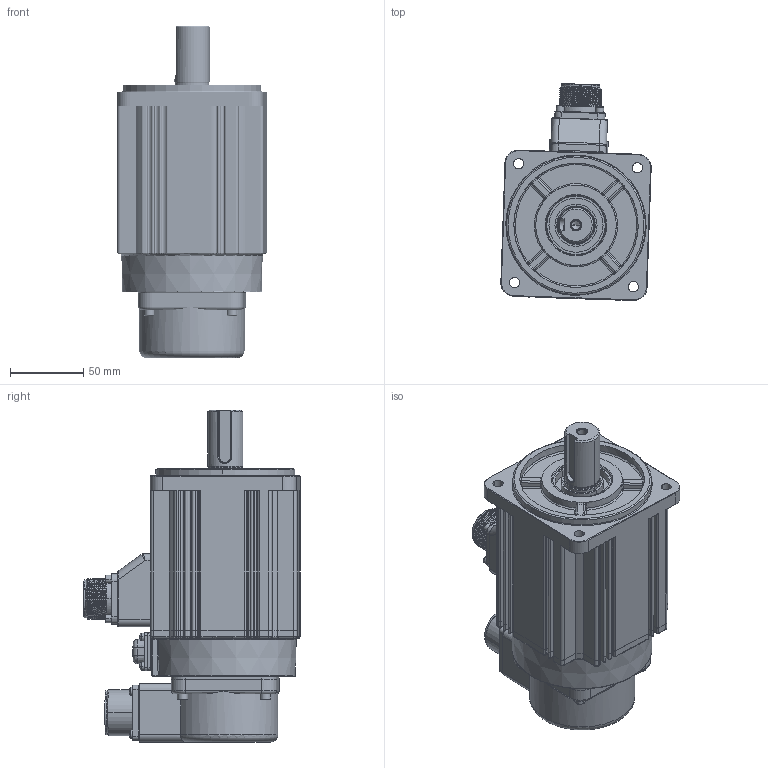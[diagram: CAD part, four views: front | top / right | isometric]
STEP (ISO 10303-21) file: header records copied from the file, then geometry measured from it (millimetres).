
FILE_DESCRIPTION((''),'2;1');
FILE_NAME('IMS20B-10M15C30C_00_ASM','2024-10-24T09:23:02',('0109067'),(''),'CREO PARAMETRIC BY PTC INC, 2019080','CREO PARAMETRIC BY PTC INC, 2019080','');
FILE_SCHEMA(('CONFIG_CONTROL_DESIGN'));
Products named in the file (19): 100_JIKE_15C_L48_2; 50051-00115_1; 18-A6-18FLANGE-CUSTOM-3D_1; ISO4762-M3X30-8_8_1; 100_DZZJ_15C_ASM_2_ASM; 100_15C_ZHOU_BZ_1; 100_HDG_BZ_1; 100_ZZZJ_15C_BZ_ASM_1_ASM; BAOZHA_MIFENGDIAN_1; BAOZHA_CHUXIANHE_1; M3X8-0001_1; 100_FHZ_1; CMS3102A20-29PE9-A-3D_1; ISO7045-M3X16-4_8_1; ISO4762-M4X16-8_8_1; 100_FHZ_ASM_1_ASM; 13000_1; IMS20B-10M15C30C_BZ_ASM_2_ASM; IMS20B-10M15C30C_00_ASM
Assembly tree (30 placements, depth 4):
  IMS20B-10M15C30C_00_ASM
    IMS20B-10M15C30C_BZ_ASM_2_ASM
      100_DZZJ_15C_ASM_2_ASM
        100_JIKE_15C_L48_2
        50051-00115_1
        18-A6-18FLANGE-CUSTOM-3D_1
        ISO4762-M3X30-8_8_1  x4
      100_ZZZJ_15C_BZ_ASM_1_ASM
        100_15C_ZHOU_BZ_1
        100_HDG_BZ_1
      BAOZHA_MIFENGDIAN_1
      BAOZHA_CHUXIANHE_1
      M3X8-0001_1  x4
      100_FHZ_ASM_1_ASM
        100_FHZ_1
        CMS3102A20-29PE9-A-3D_1
        ISO7045-M3X16-4_8_1  x4
        ISO4762-M4X16-8_8_1  x4
      13000_1
Bounding box: 102.78 x 148.37 x 227 mm (x, y, z)
Volume: 1494257.5 mm3; surface area: 196953.2 mm2
Topology: 26 solids, 66 shells, 4572 faces, 12454 edges, 8135 vertices
Faces by surface type: plane 2089, cylinder 1100, extrusion 812, torus 213, cone 144, bspline 135, sphere 79
Entity records: 151632 total; most frequent: CARTESIAN_POINT 47658, ORIENTED_EDGE 22660, DIRECTION 19098, EDGE_CURVE 11386, VERTEX_POINT 7508, VECTOR 7464, LINE 6652, AXIS2_PLACEMENT_3D 5817
